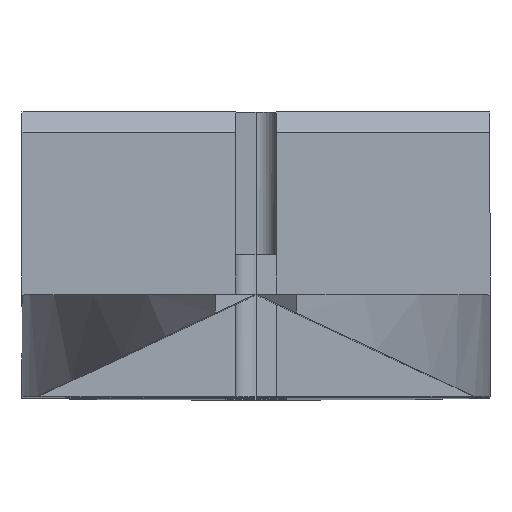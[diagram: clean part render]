
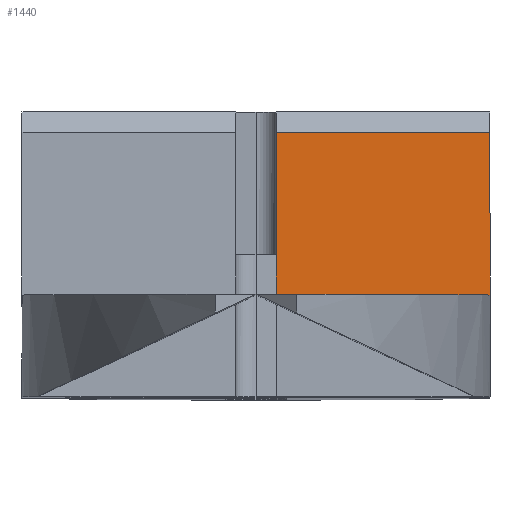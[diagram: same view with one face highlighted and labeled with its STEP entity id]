
A CAD part, top view. The second image highlights one B-rep face of the part: STEP entity #1440.
In plain terms, the highlighted planar face has unit normal (0, 0, 1).
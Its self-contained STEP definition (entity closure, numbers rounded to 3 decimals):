
#20 = LINE ( 'NONE', #925, #2559 ) ;
#99 = VECTOR ( 'NONE', #805, 1000. ) ;
#128 = CARTESIAN_POINT ( 'NONE',  ( 0.5, 2.5, 10.5 ) ) ;
#234 = CARTESIAN_POINT ( 'NONE',  ( 5.75, 6.5, 10.5 ) ) ;
#332 = VECTOR ( 'NONE', #2934, 1000. ) ;
#337 = CARTESIAN_POINT ( 'NONE',  ( 5.75, 2.5, 10.5 ) ) ;
#598 = EDGE_LOOP ( 'NONE', ( #630, #2145, #2840, #868 ) ) ;
#630 = ORIENTED_EDGE ( 'NONE', *, *, #690, .T. ) ;
#633 = EDGE_CURVE ( 'NONE', #1114, #2008, #2304, .T. ) ;
#690 = EDGE_CURVE ( 'NONE', #1602, #3022, #2713, .T. ) ;
#802 = DIRECTION ( 'NONE',  ( 1., 0., 0. ) ) ;
#805 = DIRECTION ( 'NONE',  ( 0., -1., 0. ) ) ;
#868 = ORIENTED_EDGE ( 'NONE', *, *, #2777, .F. ) ;
#925 = CARTESIAN_POINT ( 'NONE',  ( 3.125, 2.5, 10.5 ) ) ;
#1083 = EDGE_CURVE ( 'NONE', #3022, #2008, #20, .T. ) ;
#1114 = VERTEX_POINT ( 'NONE', #234 ) ;
#1271 = CARTESIAN_POINT ( 'NONE',  ( 3.125, 6.5, 10.5 ) ) ;
#1324 = VECTOR ( 'NONE', #2473, 1000. ) ;
#1440 = ADVANCED_FACE ( 'NONE', ( #2462 ), #2696, .T. ) ;
#1441 = DIRECTION ( 'NONE',  ( 0., 0., 1. ) ) ;
#1602 = VERTEX_POINT ( 'NONE', #3059 ) ;
#1879 = AXIS2_PLACEMENT_3D ( 'NONE', #3129, #1441, #2174 ) ;
#2008 = VERTEX_POINT ( 'NONE', #337 ) ;
#2063 = LINE ( 'NONE', #1271, #1324 ) ;
#2145 = ORIENTED_EDGE ( 'NONE', *, *, #1083, .T. ) ;
#2174 = DIRECTION ( 'NONE',  ( 1., 0., 0. ) ) ;
#2304 = LINE ( 'NONE', #2949, #332 ) ;
#2462 = FACE_OUTER_BOUND ( 'NONE', #598, .T. ) ;
#2473 = DIRECTION ( 'NONE',  ( 1., 0., 0. ) ) ;
#2559 = VECTOR ( 'NONE', #802, 1000. ) ;
#2696 = PLANE ( 'NONE',  #1879 ) ;
#2713 = LINE ( 'NONE', #2731, #99 ) ;
#2731 = CARTESIAN_POINT ( 'NONE',  ( 0.5, 4.5, 10.5 ) ) ;
#2777 = EDGE_CURVE ( 'NONE', #1602, #1114, #2063, .T. ) ;
#2840 = ORIENTED_EDGE ( 'NONE', *, *, #633, .F. ) ;
#2934 = DIRECTION ( 'NONE',  ( 0., -1., 0. ) ) ;
#2949 = CARTESIAN_POINT ( 'NONE',  ( 5.75, 3.5, 10.5 ) ) ;
#3022 = VERTEX_POINT ( 'NONE', #128 ) ;
#3059 = CARTESIAN_POINT ( 'NONE',  ( 0.5, 6.5, 10.5 ) ) ;
#3129 = CARTESIAN_POINT ( 'NONE',  ( 0.5, 2.5, 10.5 ) ) ;
